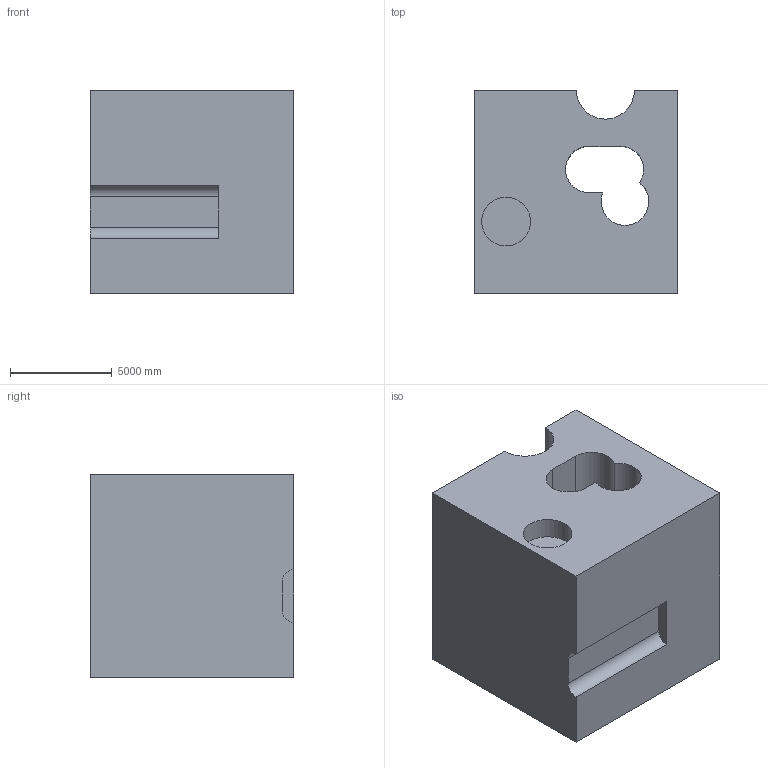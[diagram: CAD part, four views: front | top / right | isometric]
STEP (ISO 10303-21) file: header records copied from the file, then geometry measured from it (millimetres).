
FILE_DESCRIPTION (( 'STEP AP203' ), '1' );
FILE_NAME ('46.STEP', '2022-08-30T14:10:38', ( 'user' ), ( '' ), 'SwSTEP 2.0', 'SolidWorks 2021', '' );
FILE_SCHEMA (( 'CONFIG_CONTROL_DESIGN' ));
Length unit declared in the file: centimetre
Products named in the file (1): 46
Bounding box: 10000 x 10000 x 10000 mm (x, y, z)
Volume: 844788212625.9 mm3; surface area: 734767421.1 mm2
Topology: 1 solids, 1 shells, 23 faces, 60 edges, 40 vertices
Faces by surface type: plane 12, cylinder 11
Entity records: 797 total; most frequent: DIRECTION 130, CARTESIAN_POINT 124, ORIENTED_EDGE 120, EDGE_CURVE 60, AXIS2_PLACEMENT_3D 46, VERTEX_POINT 40, LINE 38, VECTOR 38
